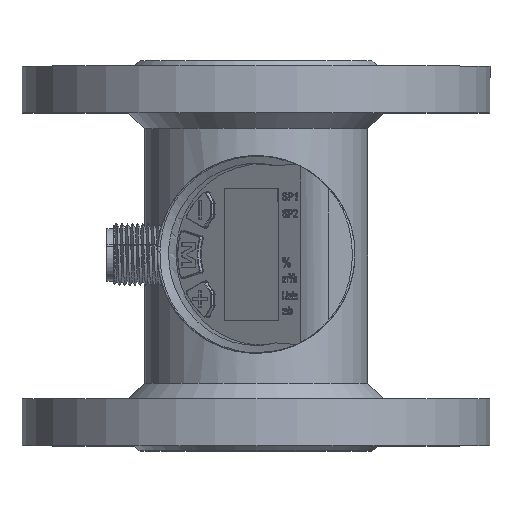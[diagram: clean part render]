
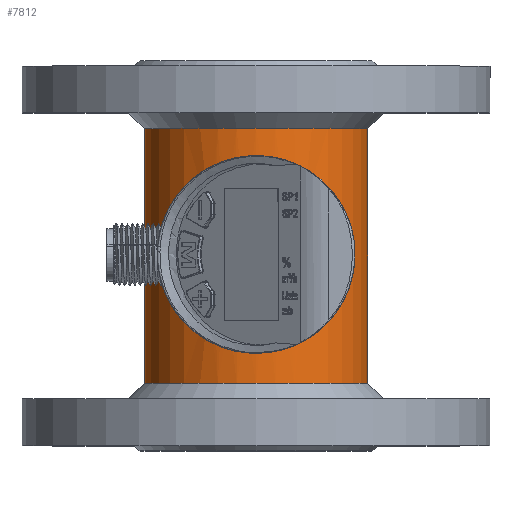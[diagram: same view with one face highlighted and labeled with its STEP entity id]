
A CAD part, top view. The second image highlights one B-rep face of the part: STEP entity #7812.
In plain terms, the highlighted cylindrical face has radius 21.5 mm (diameter 43 mm), a full revolution.
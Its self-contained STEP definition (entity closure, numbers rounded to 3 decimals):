
#6043=CYLINDRICAL_SURFACE('',#22923,21.5);
#6825=B_SPLINE_CURVE_WITH_KNOTS('',3,(#43202,#43203,#43204,#43205,#43206,
#43207,#43208,#43209,#43210,#43211),.UNSPECIFIED.,.F.,.F.,(4,2,2,2,4),(0.,
0.25,0.5,0.75,1.),.UNSPECIFIED.);
#6826=B_SPLINE_CURVE_WITH_KNOTS('',3,(#43213,#43214,#43215,#43216,#43217,
#43218,#43219,#43220,#43221,#43222),.UNSPECIFIED.,.F.,.F.,(4,2,2,2,4),(0.,
0.25,0.5,0.75,1.),.UNSPECIFIED.);
#7812=ADVANCED_FACE('',(#8657,#8658,#8659),#6043,.T.);
#8657=FACE_BOUND('',#9920,.T.);
#8658=FACE_BOUND('',#9921,.T.);
#8659=FACE_BOUND('',#9922,.T.);
#9920=EDGE_LOOP('',(#15215));
#9921=EDGE_LOOP('',(#15216));
#9922=EDGE_LOOP('',(#15217,#15218,#15219,#15220));
#10594=CIRCLE('',#22921,21.5);
#10595=CIRCLE('',#22922,21.5);
#15215=ORIENTED_EDGE('',*,*,#19273,.T.);
#15216=ORIENTED_EDGE('',*,*,#19274,.T.);
#15217=ORIENTED_EDGE('',*,*,#19268,.F.);
#15218=ORIENTED_EDGE('',*,*,#19272,.F.);
#15219=ORIENTED_EDGE('',*,*,#19270,.F.);
#15220=ORIENTED_EDGE('',*,*,#19271,.F.);
#16918=VERTEX_POINT('',#43194);
#16919=VERTEX_POINT('',#43195);
#16920=VERTEX_POINT('',#43197);
#16921=VERTEX_POINT('',#43199);
#16922=VERTEX_POINT('',#43225);
#16923=VERTEX_POINT('',#43227);
#19268=EDGE_CURVE('',#16918,#16920,#20347,.T.);
#19270=EDGE_CURVE('',#16921,#16919,#20348,.T.);
#19271=EDGE_CURVE('',#16920,#16921,#6825,.T.);
#19272=EDGE_CURVE('',#16919,#16918,#6826,.T.);
#19273=EDGE_CURVE('',#16922,#16922,#10594,.T.);
#19274=EDGE_CURVE('',#16923,#16923,#10595,.T.);
#20347=LINE('',#43196,#21509);
#20348=LINE('',#43200,#21510);
#21509=VECTOR('',#26977,1.);
#21510=VECTOR('',#26980,1.);
#22921=AXIS2_PLACEMENT_3D('',#43224,#26987,#26988);
#22922=AXIS2_PLACEMENT_3D('',#43226,#26989,#26990);
#22923=AXIS2_PLACEMENT_3D('',#43228,#26991,#26992);
#26977=DIRECTION('',(0.,1.,0.));
#26980=DIRECTION('',(0.,-1.,0.));
#26987=DIRECTION('',(0.,-1.,0.));
#26988=DIRECTION('',(-1.,0.,0.));
#26989=DIRECTION('',(0.,1.,0.));
#26990=DIRECTION('',(1.,0.,0.));
#26991=DIRECTION('',(0.,1.,0.));
#26992=DIRECTION('',(1.,0.,0.));
#43194=CARTESIAN_POINT('',(34.571,27.8,-95.224));
#43195=CARTESIAN_POINT('',(16.46,27.767,-95.224));
#43196=CARTESIAN_POINT('',(34.571,36.4,-95.224));
#43197=CARTESIAN_POINT('',(34.571,45.,-95.224));
#43199=CARTESIAN_POINT('',(16.46,45.033,-95.224));
#43200=CARTESIAN_POINT('',(16.46,36.4,-95.224));
#43202=CARTESIAN_POINT('',(34.571,45.,-95.224));
#43203=CARTESIAN_POINT('',(33.513,46.377,-94.733));
#43204=CARTESIAN_POINT('',(32.207,47.514,-94.23));
#43205=CARTESIAN_POINT('',(29.107,49.156,-93.466));
#43206=CARTESIAN_POINT('',(27.331,49.621,-93.227));
#43207=CARTESIAN_POINT('',(23.764,49.635,-93.222));
#43208=CARTESIAN_POINT('',(21.965,49.178,-93.459));
#43209=CARTESIAN_POINT('',(18.857,47.556,-94.219));
#43210=CARTESIAN_POINT('',(17.524,46.408,-94.73));
#43211=CARTESIAN_POINT('',(16.46,45.033,-95.224));
#43213=CARTESIAN_POINT('',(16.46,27.767,-95.224));
#43214=CARTESIAN_POINT('',(17.523,26.394,-94.731));
#43215=CARTESIAN_POINT('',(18.832,25.262,-94.227));
#43216=CARTESIAN_POINT('',(21.938,23.631,-93.464));
#43217=CARTESIAN_POINT('',(23.716,23.173,-93.226));
#43218=CARTESIAN_POINT('',(27.283,23.172,-93.223));
#43219=CARTESIAN_POINT('',(29.08,23.635,-93.462));
#43220=CARTESIAN_POINT('',(32.182,25.268,-94.222));
#43221=CARTESIAN_POINT('',(33.511,26.422,-94.732));
#43222=CARTESIAN_POINT('',(34.571,27.8,-95.224));
#43224=CARTESIAN_POINT('',(25.516,60.9,-114.724));
#43225=CARTESIAN_POINT('',(4.016,60.9,-114.724));
#43226=CARTESIAN_POINT('',(25.516,11.9,-114.724));
#43227=CARTESIAN_POINT('',(47.016,11.9,-114.724));
#43228=CARTESIAN_POINT('',(25.516,-20.1,-114.724));
